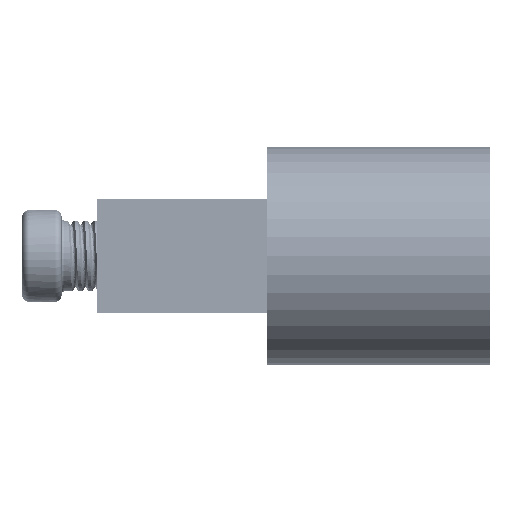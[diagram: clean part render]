
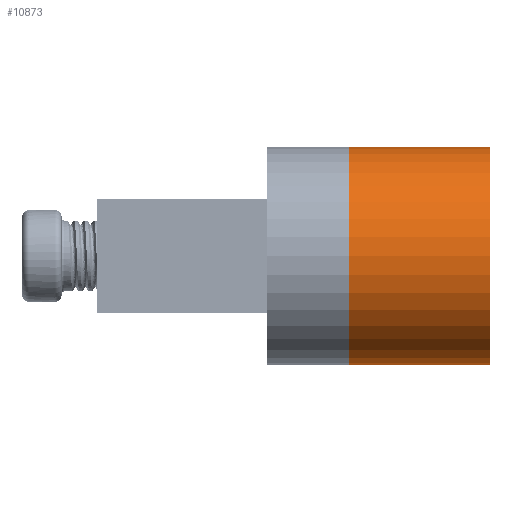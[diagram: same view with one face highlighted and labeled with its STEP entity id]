
A CAD part, left-side view. The second image highlights one B-rep face of the part: STEP entity #10873.
In plain terms, the highlighted cylindrical face has radius 7.7 mm (diameter 15.4 mm), a partial arc.
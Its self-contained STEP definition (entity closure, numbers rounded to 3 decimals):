
#67 = DIRECTION ( 'NONE',  ( 1., 0., 0. ) ) ;
#196 = AXIS2_PLACEMENT_3D ( 'NONE', #9127, #1560, #10390 ) ;
#244 = VERTEX_POINT ( 'NONE', #15684 ) ;
#306 = EDGE_CURVE ( 'NONE', #13381, #244, #13322, .T. ) ;
#427 = CIRCLE ( 'NONE', #11563, 7.7 ) ;
#976 = CYLINDRICAL_SURFACE ( 'NONE', #1724, 7.7 ) ;
#1412 = VERTEX_POINT ( 'NONE', #10122 ) ;
#1425 = EDGE_CURVE ( 'NONE', #8759, #244, #427, .T. ) ;
#1560 = DIRECTION ( 'NONE',  ( 0., 0., 1. ) ) ;
#1679 = DIRECTION ( 'NONE',  ( 0., 0., -1. ) ) ;
#1724 = AXIS2_PLACEMENT_3D ( 'NONE', #15433, #4120, #7879 ) ;
#2060 = CIRCLE ( 'NONE', #196, 7.7 ) ;
#2078 = VECTOR ( 'NONE', #1679, 1000. ) ;
#2338 = ORIENTED_EDGE ( 'NONE', *, *, #5602, .F. ) ;
#4120 = DIRECTION ( 'NONE',  ( 0., 0., -1. ) ) ;
#5448 = LINE ( 'NONE', #7970, #2078 ) ;
#5602 = EDGE_CURVE ( 'NONE', #1412, #13381, #2060, .T. ) ;
#7195 = CARTESIAN_POINT ( 'NONE',  ( 14., 7.7, 10. ) ) ;
#7274 = ORIENTED_EDGE ( 'NONE', *, *, #306, .F. ) ;
#7634 = DIRECTION ( 'NONE',  ( 0., 0., 1. ) ) ;
#7706 = FACE_OUTER_BOUND ( 'NONE', #8020, .T. ) ;
#7879 = DIRECTION ( 'NONE',  ( -1., 0., 0. ) ) ;
#7970 = CARTESIAN_POINT ( 'NONE',  ( 14., -7.7, 10. ) ) ;
#8020 = EDGE_LOOP ( 'NONE', ( #9678, #7274, #2338, #9137 ) ) ;
#8543 = CARTESIAN_POINT ( 'NONE',  ( 14., 7.7, 10. ) ) ;
#8759 = VERTEX_POINT ( 'NONE', #16199 ) ;
#8921 = EDGE_CURVE ( 'NONE', #1412, #8759, #5448, .T. ) ;
#9127 = CARTESIAN_POINT ( 'NONE',  ( 14., 0., 10. ) ) ;
#9137 = ORIENTED_EDGE ( 'NONE', *, *, #8921, .T. ) ;
#9678 = ORIENTED_EDGE ( 'NONE', *, *, #1425, .T. ) ;
#10122 = CARTESIAN_POINT ( 'NONE',  ( 14., -7.7, 10. ) ) ;
#10390 = DIRECTION ( 'NONE',  ( 1., 0., 0. ) ) ;
#10755 = VECTOR ( 'NONE', #14750, 1000. ) ;
#10873 = ADVANCED_FACE ( 'NONE', ( #7706 ), #976, .T. ) ;
#11563 = AXIS2_PLACEMENT_3D ( 'NONE', #15190, #7634, #67 ) ;
#13322 = LINE ( 'NONE', #7195, #10755 ) ;
#13381 = VERTEX_POINT ( 'NONE', #8543 ) ;
#14750 = DIRECTION ( 'NONE',  ( 0., 0., -1. ) ) ;
#15190 = CARTESIAN_POINT ( 'NONE',  ( 14., 0., 0. ) ) ;
#15433 = CARTESIAN_POINT ( 'NONE',  ( 14., 0., 10. ) ) ;
#15684 = CARTESIAN_POINT ( 'NONE',  ( 14., 7.7, 0. ) ) ;
#16199 = CARTESIAN_POINT ( 'NONE',  ( 14., -7.7, 0. ) ) ;
